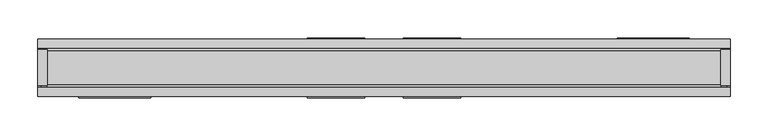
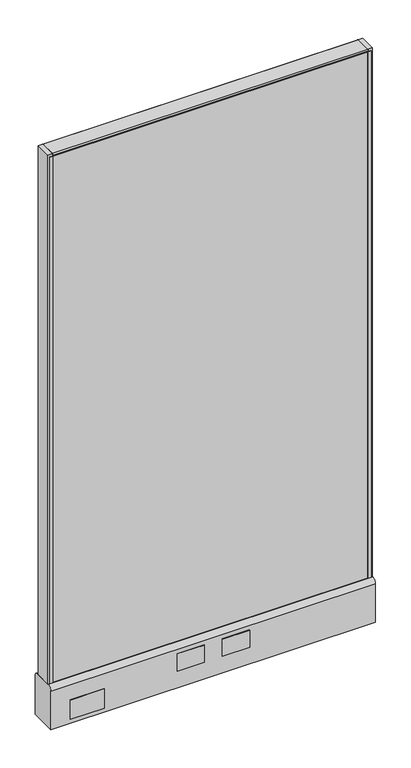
"""IFC4 building model written with IfcOpenShell, lengths in millimetres: furniture geometry."""

from ifc_helpers import new_model, si_unit, point, frame, frame_2d, origin, place, context, project, spatial, polyline, circle_curve, trimmed, segment, composite_curve, outline, extrude, source, transform, mapped, element, save
from ifc_brep_helpers import plane_surface, cylinder_surface, advanced_brep


def furniture_457a0db2(model_context):
    return source(origin(), model_context, "Body", "SolidModel", [
        extrude(outline(polyline([(-101.6, 39.6875), (-25.4, 39.6875), (-25.4, 38.1), (-101.6, 38.1), (-101.6, 39.6875)])), frame((0.0, 0.0, 60.325), z_axis=(0.0, 0.0, 1.0), x_axis=(1.0, 0.0, 0.0)), (0.0, 0.0, 1.0), 50.8),
        extrude(outline(polyline([(25.4, 39.6875), (101.6, 39.6875), (101.6, 38.1), (25.4, 38.1), (25.4, 39.6875)])), frame((0.0, 0.0, 60.325), z_axis=(0.0, 0.0, 1.0), x_axis=(1.0, 0.0, 0.0)), (0.0, 0.0, 1.0), 50.8),
        extrude(outline(polyline([(-101.6, -38.1), (-25.4, -38.1), (-25.4, -39.6875), (-101.6, -39.6875), (-101.6, -38.1)])), frame((0.0, 0.0, 60.325), z_axis=(0.0, 0.0, 1.0), x_axis=(1.0, 0.0, 0.0)), (0.0, 0.0, 1.0), 50.8),
        extrude(outline(polyline([(25.4, -38.1), (101.6, -38.1), (101.6, -39.6875), (25.4, -39.6875), (25.4, -38.1)])), frame((0.0, 0.0, 60.325), z_axis=(0.0, 0.0, 1.0), x_axis=(1.0, 0.0, 0.0)), (0.0, 0.0, 1.0), 50.8),
        extrude(outline(polyline([(403.225, 38.1), (307.975, 38.1), (307.975, 39.6875), (403.225, 39.6875), (403.225, 38.1)])), frame((0.0, 0.0, 22.225), z_axis=(0.0, 0.0, 1.0), x_axis=(1.0, 0.0, 0.0)), (0.0, 0.0, 1.0), 57.15),
        extrude(outline(polyline([(-307.975, -39.6875), (-403.225, -39.6875), (-403.225, -38.1), (-307.975, -38.1), (-307.975, -39.6875)])), frame((0.0, 0.0, 22.225), z_axis=(0.0, 0.0, 1.0), x_axis=(1.0, 0.0, 0.0)), (0.0, 0.0, 1.0), 57.15),
        advanced_brep(
        [(400.05, 0.0, 0.0), (425.45, 0.0, 0.0), (412.75, 0.0, 0.0), (400.05, 0.0, 4.7625), (425.45, 0.0, 4.7625), (406.4, 0.0, 4.7625), (419.1, 0.0, 4.7625), (406.4, 0.0, 111.125), (419.1, 0.0, 111.125), (412.75, 0.0, 111.125)],
        [
            (0, 1, circle_curve(frame((412.75, 0.0, 0.0), z_axis=(0.0, 0.0, -1.0), x_axis=(1.0, 0.0, 0.0)), 12.7)),
            (1, 2),
            (2, 0),
            (1, 0, circle_curve(frame((412.75, 0.0, 0.0), z_axis=(0.0, 0.0, -1.0), x_axis=(1.0, 0.0, 0.0)), 12.7)),
            (3, 4, circle_curve(frame((412.75, 0.0, 4.7625), z_axis=(0.0, 0.0, -1.0), x_axis=(1.0, 0.0, 0.0)), 12.7)),
            (4, 1),
            (0, 3),
            (4, 3, circle_curve(frame((412.75, 0.0, 4.7625), z_axis=(0.0, 0.0, -1.0), x_axis=(1.0, 0.0, 0.0)), 12.7)),
            (5, 6, circle_curve(frame((412.75, 0.0, 4.7625), z_axis=(0.0, 0.0, -1.0), x_axis=(1.0, 0.0, 0.0)), 6.35)),
            (6, 4),
            (3, 5),
            (6, 5, circle_curve(frame((412.75, 0.0, 4.7625), z_axis=(0.0, 0.0, -1.0), x_axis=(1.0, 0.0, 0.0)), 6.35)),
            (7, 8, circle_curve(frame((412.75, 0.0, 111.125), z_axis=(0.0, 0.0, -1.0), x_axis=(1.0, 0.0, 0.0)), 6.35)),
            (8, 6),
            (5, 7),
            (8, 7, circle_curve(frame((412.75, 0.0, 111.125), z_axis=(0.0, 0.0, -1.0), x_axis=(1.0, 0.0, 0.0)), 6.35)),
            (9, 8),
            (7, 9),
        ],
        [
            plane_surface(frame((412.75, 0.0, 0.0), z_axis=(0.0, 0.0, -1.0), x_axis=(1.0, 0.0, 0.0))),
            cylinder_surface(frame((412.75, 0.0, 114.882153), z_axis=(0.0, 0.0, 1.0), x_axis=(1.0, 0.0, 0.0)), 12.7),
            plane_surface(frame((412.75, 0.0, 4.7625), z_axis=(0.0, 0.0, 1.0), x_axis=(1.0, 0.0, 0.0))),
            cylinder_surface(frame((412.75, 0.0, 114.882153), z_axis=(0.0, 0.0, 1.0), x_axis=(1.0, 0.0, 0.0)), 6.35),
            plane_surface(frame((412.75, 0.0, 111.125), z_axis=(0.0, 0.0, 1.0), x_axis=(1.0, 0.0, 0.0))),
        ],
        [
            (0, [[1, 2, 3]]),
            (0, [[4, -3, -2]]),
            (1, [[5, 6, -1, 7]]),
            (1, [[8, -7, -4, -6]]),
            (2, [[9, 10, -5, 11]]),
            (2, [[12, -11, -8, -10]]),
            (3, [[13, 14, -9, 15]]),
            (3, [[16, -15, -12, -14]]),
            (4, [[17, -13, 18]]),
            (4, [[-18, -16, -17]]),
        ],
    ),
        advanced_brep(
        [(-425.45, 0.0, 4.7625), (-400.05, 0.0, 4.7625), (-400.05, 0.0, 0.0), (-425.45, 0.0, 0.0), (-419.1, 0.0, 4.7625), (-406.4, 0.0, 4.7625), (-419.1, 0.0, 111.125), (-406.4, 0.0, 111.125), (-412.75, 0.0, 111.125), (-412.75, 0.0, 0.0)],
        [
            (0, 1, circle_curve(frame((-412.75, 0.0, 4.7625), z_axis=(0.0, 0.0, -1.0), x_axis=(1.0, 0.0, 0.0)), 12.7)),
            (1, 2),
            (2, 3, circle_curve(frame((-412.75, 0.0, 0.0), z_axis=(0.0, 0.0, 1.0), x_axis=(1.0, 0.0, 0.0)), 12.7)),
            (3, 0),
            (1, 0, circle_curve(frame((-412.75, 0.0, 4.7625), z_axis=(0.0, 0.0, -1.0), x_axis=(1.0, 0.0, 0.0)), 12.7)),
            (3, 2, circle_curve(frame((-412.75, 0.0, 0.0), z_axis=(0.0, 0.0, 1.0), x_axis=(1.0, 0.0, 0.0)), 12.7)),
            (4, 5, circle_curve(frame((-412.75, 0.0, 4.7625), z_axis=(0.0, 0.0, -1.0), x_axis=(1.0, 0.0, 0.0)), 6.35)),
            (5, 1),
            (0, 4),
            (5, 4, circle_curve(frame((-412.75, 0.0, 4.7625), z_axis=(0.0, 0.0, -1.0), x_axis=(1.0, 0.0, 0.0)), 6.35)),
            (6, 7, circle_curve(frame((-412.75, 0.0, 111.125), z_axis=(0.0, 0.0, -1.0), x_axis=(1.0, 0.0, 0.0)), 6.35)),
            (7, 5),
            (4, 6),
            (7, 6, circle_curve(frame((-412.75, 0.0, 111.125), z_axis=(0.0, 0.0, -1.0), x_axis=(1.0, 0.0, 0.0)), 6.35)),
            (8, 7),
            (6, 8),
            (2, 9),
            (9, 3),
        ],
        [
            cylinder_surface(frame((-412.75, 0.0, 123.825), z_axis=(0.0, 0.0, 1.0), x_axis=(1.0, 0.0, 0.0)), 12.7),
            plane_surface(frame((-412.75, 0.0, 4.7625), z_axis=(0.0, 0.0, 1.0), x_axis=(1.0, 0.0, 0.0))),
            cylinder_surface(frame((-412.75, 0.0, 123.825), z_axis=(0.0, 0.0, 1.0), x_axis=(1.0, 0.0, 0.0)), 6.35),
            plane_surface(frame((-412.75, 0.0, 111.125), z_axis=(0.0, 0.0, 1.0), x_axis=(1.0, 0.0, 0.0))),
            plane_surface(frame((-412.75, 0.0, 0.0), z_axis=(0.0, 0.0, -1.0), x_axis=(1.0, 0.0, 0.0))),
        ],
        [
            (0, [[1, 2, 3, 4]]),
            (0, [[5, -4, 6, -2]]),
            (1, [[7, 8, -1, 9]]),
            (1, [[10, -9, -5, -8]]),
            (2, [[11, 12, -7, 13]]),
            (2, [[14, -13, -10, -12]]),
            (3, [[15, -11, 16]]),
            (3, [[-16, -14, -15]]),
            (4, [[-3, 17, 18]]),
            (4, [[-6, -18, -17]]),
        ],
    ),
        extrude(outline(polyline([(-457.2, 23.8125), (-444.5, 23.8125), (-444.5, -23.8125), (-457.2, -23.8125), (-457.2, 23.8125)])), frame((0.0, 0.0, 136.525), z_axis=(0.0, 0.0, 1.0), x_axis=(1.0, 0.0, 0.0)), (0.0, 0.0, 1.0), 1574.8),
        extrude(outline(polyline([(444.5, -23.8125), (444.5, 23.8125), (457.2, 23.8125), (457.2, -23.8125), (444.5, -23.8125)])), frame((0.0, 0.0, 136.525), z_axis=(0.0, 0.0, 1.0), x_axis=(1.0, 0.0, 0.0)), (0.0, 0.0, 1.0), 1574.8),
        extrude(outline(polyline([(-444.5, 25.4), (-444.5, 23.8125), (-452.4375, 23.8125), (-452.4375, 25.4), (-444.5, 25.4)])), frame((0.0, 0.0, 136.525), z_axis=(0.0, 0.0, 1.0), x_axis=(1.0, 0.0, 0.0)), (0.0, 0.0, 1.0), 1568.45),
        extrude(outline(polyline([(-444.5, -25.4), (-452.4375, -25.4), (-452.4375, -23.8125), (-444.5, -23.8125), (-444.5, -25.4)])), frame((0.0, 0.0, 136.525), z_axis=(0.0, 0.0, 1.0), x_axis=(1.0, 0.0, 0.0)), (0.0, 0.0, 1.0), 1568.45),
        extrude(outline(polyline([(452.4375, 23.8125), (444.5, 23.8125), (444.5, 25.4), (452.4375, 25.4), (452.4375, 23.8125)])), frame((0.0, 0.0, 136.525), z_axis=(0.0, 0.0, 1.0), x_axis=(1.0, 0.0, 0.0)), (0.0, 0.0, 1.0), 1568.45),
        extrude(outline(polyline([(444.5, -25.4), (444.5, -23.8125), (452.4375, -23.8125), (452.4375, -25.4), (444.5, -25.4)])), frame((0.0, 0.0, 136.525), z_axis=(0.0, 0.0, 1.0), x_axis=(1.0, 0.0, 0.0)), (0.0, 0.0, 1.0), 1568.45),
        extrude(outline(composite_curve([segment(trimmed(circle_curve(frame_2d((22.225, 1708.15)), 3.175), [point((22.225, 1711.325))], [point((25.4, 1708.15))], False, "CARTESIAN"), True, "CONTINUOUS"), segment(polyline([(25.4, 1708.15), (25.4, 1704.975), (-25.4, 1704.975), (-25.4, 1708.15)]), True, "CONTINUOUS"), segment(trimmed(circle_curve(frame_2d((-22.225, 1708.15)), 3.175), [point((-25.4, 1708.15))], [point((-22.225, 1711.325))], False, "CARTESIAN"), True, "CONTINUOUS"), segment(polyline([(-22.225, 1711.325), (22.225, 1711.325)]), True, "CONTINUOUS")], self_intersect=False)), frame((-444.5, 0.0, 0.0), z_axis=(1.0, 0.0, 0.0), x_axis=(0.0, 1.0, 0.0)), (0.0, 0.0, 1.0), 889.0),
        extrude(outline(composite_curve([segment(trimmed(circle_curve(frame_2d((25.4, 123.825)), 12.7), [point((25.4, 136.525))], [point((38.1, 123.825))], False, "CARTESIAN"), True, "CONTINUOUS"), segment(polyline([(38.1, 123.825), (38.1, 9.525), (-38.1, 9.525), (-38.1, 123.825)]), True, "CONTINUOUS"), segment(trimmed(circle_curve(frame_2d((-25.4, 123.825)), 12.7), [point((-38.1, 123.825))], [point((-25.4, 136.525))], False, "CARTESIAN"), True, "CONTINUOUS"), segment(polyline([(-25.4, 136.525), (25.4, 136.525)]), True, "CONTINUOUS")], self_intersect=False)), frame((-457.2, 0.0, 0.0), z_axis=(1.0, 0.0, 0.0), x_axis=(0.0, 1.0, 0.0)), (0.0, 0.0, 1.0), 914.4),
        extrude(outline(polyline([(444.5, 23.8125), (444.5, -23.8125), (-444.5, -23.8125), (-444.5, 23.8125), (444.5, 23.8125)])), frame((0.0, 0.0, 136.525), z_axis=(0.0, 0.0, 1.0), x_axis=(1.0, 0.0, 0.0)), (0.0, 0.0, 1.0), 1568.45),
    ])


if __name__ == "__main__":
    model = new_model("IFC4")
    model_context = context("Model", 3, world=origin())
    ifc_project = project(units=[si_unit("LENGTHUNIT", "METRE", prefix="MILLI")], contexts=[model_context])
    site = spatial("IfcSite", under=ifc_project)
    building = spatial("IfcBuilding", under=site)
    placement = place(None, origin())
    furniture_shape = furniture_457a0db2(model_context)
    element("IfcFurniture", 1, ObjectType="HermanMiller_ActionOffice_A1110_Hard-SurfacedPanelStandardBase : 67\"H x 36\"W-G", at=placement, inside=building, context=model_context, shape_type="MappedRepresentation", body=[
        mapped(furniture_shape, transform((0.0, 0.0, 0.0), x_axis=(1.0, 0.0, 0.0), y_axis=(0.0, 1.0, 0.0), z_axis=(0.0, 0.0, 1.0))),
    ])
    save(model, "model.ifc")
